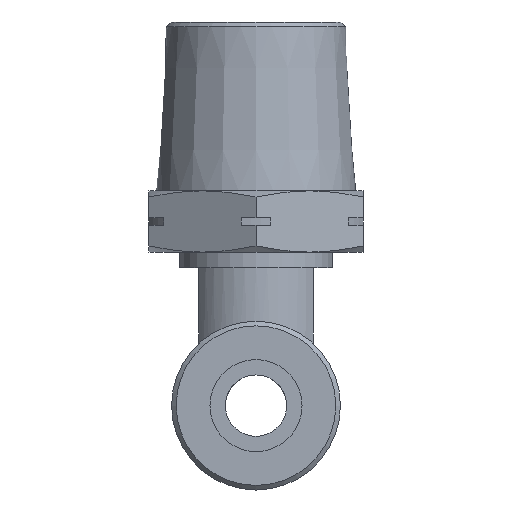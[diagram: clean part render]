
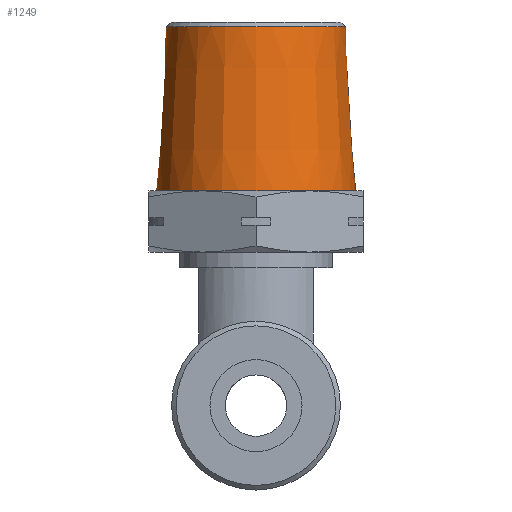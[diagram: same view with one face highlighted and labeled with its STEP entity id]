
A CAD part, front view. The second image highlights one B-rep face of the part: STEP entity #1249.
In plain terms, the highlighted conical face has half-angle 3.5 degrees and reference radius 6.164 mm.
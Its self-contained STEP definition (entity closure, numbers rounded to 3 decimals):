
#30=CONICAL_SURFACE('',#1370,6.164,0.061);
#120=FACE_OUTER_BOUND('',#200,.T.);
#200=EDGE_LOOP('',(#902,#903,#904,#905,#906));
#285=CIRCLE('',#1368,5.846);
#286=CIRCLE('',#1369,5.846);
#287=CIRCLE('',#1371,6.5);
#388=LINE('',#2038,#472);
#472=VECTOR('',#1614,6.164);
#560=VERTEX_POINT('',#2031);
#561=VERTEX_POINT('',#2033);
#562=VERTEX_POINT('',#2037);
#693=EDGE_CURVE('',#560,#561,#285,.T.);
#694=EDGE_CURVE('',#561,#560,#286,.T.);
#695=EDGE_CURVE('',#561,#562,#388,.T.);
#696=EDGE_CURVE('',#562,#562,#287,.T.);
#902=ORIENTED_EDGE('',*,*,#693,.F.);
#903=ORIENTED_EDGE('',*,*,#694,.F.);
#904=ORIENTED_EDGE('',*,*,#695,.T.);
#905=ORIENTED_EDGE('',*,*,#696,.F.);
#906=ORIENTED_EDGE('',*,*,#695,.F.);
#1249=ADVANCED_FACE('',(#120),#30,.T.);
#1368=AXIS2_PLACEMENT_3D('',#2034,#1608,#1609);
#1369=AXIS2_PLACEMENT_3D('',#2035,#1610,#1611);
#1370=AXIS2_PLACEMENT_3D('',#2036,#1612,#1613);
#1371=AXIS2_PLACEMENT_3D('',#2039,#1615,#1616);
#1608=DIRECTION('center_axis',(0.,0.,1.));
#1609=DIRECTION('ref_axis',(0.,-1.,0.));
#1610=DIRECTION('center_axis',(0.,0.,1.));
#1611=DIRECTION('ref_axis',(0.,-1.,0.));
#1612=DIRECTION('center_axis',(0.,0.,-1.));
#1613=DIRECTION('ref_axis',(0.,1.,0.));
#1614=DIRECTION('',(0.,-0.061,-0.998));
#1615=DIRECTION('center_axis',(0.,0.,-1.));
#1616=DIRECTION('ref_axis',(0.,1.,0.));
#2031=CARTESIAN_POINT('',(0.,5.846,24.701));
#2033=CARTESIAN_POINT('',(0.,-5.846,24.701));
#2034=CARTESIAN_POINT('Origin',(0.,0.,24.701));
#2035=CARTESIAN_POINT('Origin',(0.,0.,24.701));
#2036=CARTESIAN_POINT('Origin',(0.,0.,19.5));
#2037=CARTESIAN_POINT('',(0.,-6.5,14.));
#2038=CARTESIAN_POINT('',(0.,-6.164,19.5));
#2039=CARTESIAN_POINT('Origin',(0.,0.,14.));
